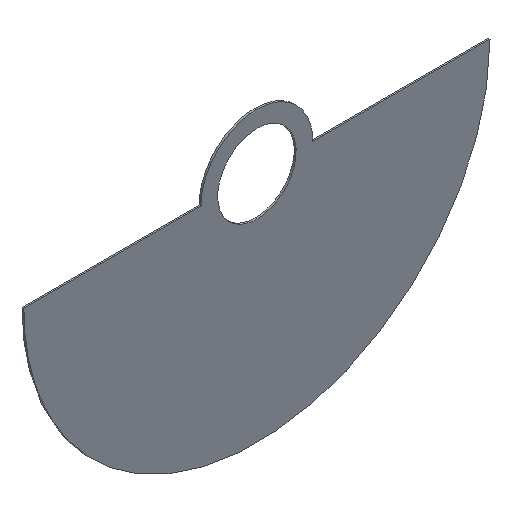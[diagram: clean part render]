
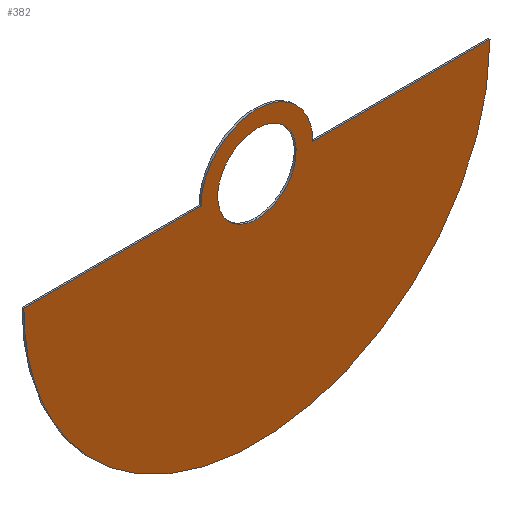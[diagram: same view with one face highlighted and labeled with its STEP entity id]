
A CAD part, isometric view. The second image highlights one B-rep face of the part: STEP entity #382.
In plain terms, the highlighted free-form (B-spline) face has degree [1, 1] with [2, 2] control points.
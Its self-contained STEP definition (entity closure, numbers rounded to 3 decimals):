
#17 = CARTESIAN_POINT ( 'NONE',  ( 30., -1., 0. ) ) ;
#21 = CARTESIAN_POINT ( 'NONE',  ( 125., -1., 0. ) ) ;
#27 = VERTEX_POINT ( 'NONE', #417 ) ;
#28 = B_SPLINE_CURVE_WITH_KNOTS ( 'NONE', 1,
 ( #54, #158 ),
 .UNSPECIFIED., .F., .F.,
 ( 2, 2 ),
 ( 0., 1. ),
 .UNSPECIFIED. ) ;
#48 = CARTESIAN_POINT ( 'NONE',  ( 0., -1., -21. ) ) ;
#54 = CARTESIAN_POINT ( 'NONE',  ( 30., -1., 0. ) ) ;
#56 = VERTEX_POINT ( 'NONE', #353 ) ;
#73 = CARTESIAN_POINT ( 'NONE',  ( -30., -1., 0. ) ) ;
#76 = ORIENTED_EDGE ( 'NONE', *, *, #376, .F. ) ;
#83 = CARTESIAN_POINT ( 'NONE',  ( 0., -1., 21. ) ) ;
#110 =( BOUNDED_CURVE ( )  B_SPLINE_CURVE ( 3, ( #354, #362, #419, #393 ),
 .UNSPECIFIED., .F., .T. ) 
 B_SPLINE_CURVE_WITH_KNOTS ( ( 4, 4 ),
 ( -1.571, 0. ),
 .UNSPECIFIED. ) 
 CURVE ( )  GEOMETRIC_REPRESENTATION_ITEM ( )  RATIONAL_B_SPLINE_CURVE ( ( 1., 0.805, 0.805, 1. ) ) 
 REPRESENTATION_ITEM ( '' )  );
#123 = CARTESIAN_POINT ( 'NONE',  ( -125., -1., 0. ) ) ;
#126 = VERTEX_POINT ( 'NONE', #21 ) ;
#136 = EDGE_LOOP ( 'NONE', ( #270, #410 ) ) ;
#138 = CARTESIAN_POINT ( 'NONE',  ( -30., -1., 17.574 ) ) ;
#139 = EDGE_CURVE ( 'NONE', #160, #27, #433, .T. ) ;
#152 = CARTESIAN_POINT ( 'NONE',  ( -42., -1., -21. ) ) ;
#153 = CARTESIAN_POINT ( 'NONE',  ( -125., -1., -250. ) ) ;
#158 = CARTESIAN_POINT ( 'NONE',  ( 125., -1., 0. ) ) ;
#160 = VERTEX_POINT ( 'NONE', #83 ) ;
#165 = B_SPLINE_CURVE_WITH_KNOTS ( 'NONE', 1,
 ( #180, #280 ),
 .UNSPECIFIED., .F., .F.,
 ( 2, 2 ),
 ( 0., 1. ),
 .UNSPECIFIED. ) ;
#174 = CARTESIAN_POINT ( 'NONE',  ( 0., -1., -21. ) ) ;
#180 = CARTESIAN_POINT ( 'NONE',  ( -125., -1., 0. ) ) ;
#187 = CARTESIAN_POINT ( 'NONE',  ( 125., -1., 0. ) ) ;
#194 = CARTESIAN_POINT ( 'NONE',  ( 0., -1., 21. ) ) ;
#207 = CARTESIAN_POINT ( 'NONE',  ( -30., -1., 0. ) ) ;
#211 = CARTESIAN_POINT ( 'NONE',  ( 0., -1., 30. ) ) ;
#213 = CARTESIAN_POINT ( 'NONE',  ( 21., -1., 12.302 ) ) ;
#223 = CARTESIAN_POINT ( 'NONE',  ( -126.5, -1., -125.93 ) ) ;
#224 = CARTESIAN_POINT ( 'NONE',  ( -42., -1., 21. ) ) ;
#226 = CARTESIAN_POINT ( 'NONE',  ( 126.5, -1., 30.93 ) ) ;
#235 = CARTESIAN_POINT ( 'NONE',  ( 0., -1., 21. ) ) ;
#239 = EDGE_CURVE ( 'NONE', #432, #274, #165, .T. ) ;
#240 = CARTESIAN_POINT ( 'NONE',  ( 12.302, -1., -21. ) ) ;
#257 = CARTESIAN_POINT ( 'NONE',  ( 125., -1., -250. ) ) ;
#264 =( BOUNDED_CURVE ( )  B_SPLINE_CURVE ( 3, ( #174, #240, #306, #413, #213, #377, #235 ),
 .UNSPECIFIED., .F., .T. ) 
 B_SPLINE_CURVE_WITH_KNOTS ( ( 4, 3, 4 ),
 ( -3.142, -1.571, 0. ),
 .UNSPECIFIED. ) 
 CURVE ( )  GEOMETRIC_REPRESENTATION_ITEM ( )  RATIONAL_B_SPLINE_CURVE ( ( 1., 0.805, 0.805, 1., 0.805, 0.805, 1. ) ) 
 REPRESENTATION_ITEM ( '' )  );
#268 = EDGE_CURVE ( 'NONE', #27, #160, #264, .T. ) ;
#270 = ORIENTED_EDGE ( 'NONE', *, *, #139, .F. ) ;
#274 = VERTEX_POINT ( 'NONE', #207 ) ;
#275 = CARTESIAN_POINT ( 'NONE',  ( -17.574, -1., 30. ) ) ;
#277 = EDGE_CURVE ( 'NONE', #274, #56, #295, .T. ) ;
#280 = CARTESIAN_POINT ( 'NONE',  ( -30., -1., 0. ) ) ;
#287 = CARTESIAN_POINT ( 'NONE',  ( -125., -1., 0. ) ) ;
#295 =( BOUNDED_CURVE ( )  B_SPLINE_CURVE ( 3, ( #73, #138, #275, #211 ),
 .UNSPECIFIED., .F., .T. ) 
 B_SPLINE_CURVE_WITH_KNOTS ( ( 4, 4 ),
 ( -1.571, 0. ),
 .UNSPECIFIED. ) 
 CURVE ( )  GEOMETRIC_REPRESENTATION_ITEM ( )  RATIONAL_B_SPLINE_CURVE ( ( 1., 0.805, 0.805, 1. ) ) 
 REPRESENTATION_ITEM ( '' )  );
#296 = EDGE_LOOP ( 'NONE', ( #401, #76, #437, #420, #334 ) ) ;
#301 = EDGE_CURVE ( 'NONE', #56, #369, #110, .T. ) ;
#306 = CARTESIAN_POINT ( 'NONE',  ( 21., -1., -12.302 ) ) ;
#314 = B_SPLINE_SURFACE_WITH_KNOTS ( 'NONE', 1, 1, ( 
 ( #223, #358 ),
 ( #428, #226 ) ),
 .UNSPECIFIED., .F., .F., .F.,
 ( 2, 2 ),
 ( 2, 2 ),
 ( 0., 1. ),
 ( 0., 1. ),
 .UNSPECIFIED. ) ;
#334 = ORIENTED_EDGE ( 'NONE', *, *, #277, .F. ) ;
#353 = CARTESIAN_POINT ( 'NONE',  ( 0., -1., 30. ) ) ;
#354 = CARTESIAN_POINT ( 'NONE',  ( 0., -1., 30. ) ) ;
#358 = CARTESIAN_POINT ( 'NONE',  ( 126.5, -1., -125.93 ) ) ;
#362 = CARTESIAN_POINT ( 'NONE',  ( 17.574, -1., 30. ) ) ;
#369 = VERTEX_POINT ( 'NONE', #17 ) ;
#376 = EDGE_CURVE ( 'NONE', #126, #432, #404, .T. ) ;
#377 = CARTESIAN_POINT ( 'NONE',  ( 12.302, -1., 21. ) ) ;
#382 = ADVANCED_FACE ( 'NONE', ( #392, #395 ), #314, .F. ) ;
#392 = FACE_BOUND ( 'NONE', #136, .T. ) ;
#393 = CARTESIAN_POINT ( 'NONE',  ( 30., -1., 0. ) ) ;
#395 = FACE_OUTER_BOUND ( 'NONE', #296, .T. ) ;
#401 = ORIENTED_EDGE ( 'NONE', *, *, #239, .F. ) ;
#402 = EDGE_CURVE ( 'NONE', #369, #126, #28, .T. ) ;
#404 =( BOUNDED_CURVE ( )  B_SPLINE_CURVE ( 3, ( #187, #257, #153, #287 ),
 .UNSPECIFIED., .F., .T. ) 
 B_SPLINE_CURVE_WITH_KNOTS ( ( 4, 4 ),
 ( -3.142, 0. ),
 .UNSPECIFIED. ) 
 CURVE ( )  GEOMETRIC_REPRESENTATION_ITEM ( )  RATIONAL_B_SPLINE_CURVE ( ( 1., 0.333, 0.333, 1. ) ) 
 REPRESENTATION_ITEM ( '' )  );
#410 = ORIENTED_EDGE ( 'NONE', *, *, #268, .F. ) ;
#413 = CARTESIAN_POINT ( 'NONE',  ( 21., -1., 0. ) ) ;
#417 = CARTESIAN_POINT ( 'NONE',  ( 0., -1., -21. ) ) ;
#419 = CARTESIAN_POINT ( 'NONE',  ( 30., -1., 17.574 ) ) ;
#420 = ORIENTED_EDGE ( 'NONE', *, *, #301, .F. ) ;
#428 = CARTESIAN_POINT ( 'NONE',  ( -126.5, -1., 30.93 ) ) ;
#432 = VERTEX_POINT ( 'NONE', #123 ) ;
#433 =( BOUNDED_CURVE ( )  B_SPLINE_CURVE ( 3, ( #194, #224, #152, #48 ),
 .UNSPECIFIED., .F., .F. ) 
 B_SPLINE_CURVE_WITH_KNOTS ( ( 4, 4 ),
 ( -3.142, 0. ),
 .UNSPECIFIED. ) 
 CURVE ( )  GEOMETRIC_REPRESENTATION_ITEM ( )  RATIONAL_B_SPLINE_CURVE ( ( 1., 0.333, 0.333, 1. ) ) 
 REPRESENTATION_ITEM ( '' )  );
#437 = ORIENTED_EDGE ( 'NONE', *, *, #402, .F. ) ;
